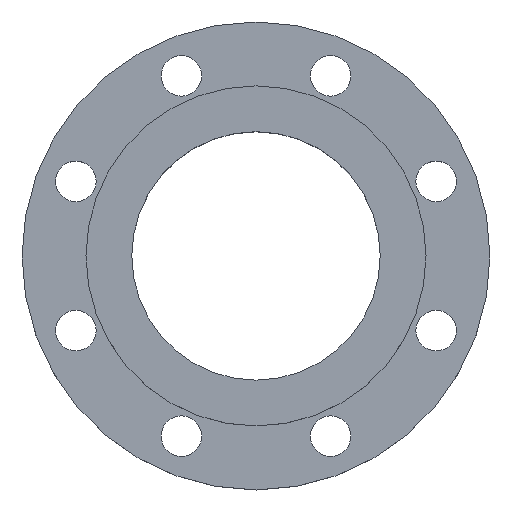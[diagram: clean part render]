
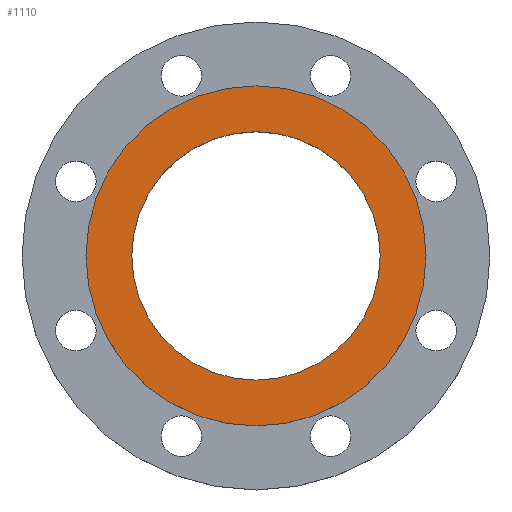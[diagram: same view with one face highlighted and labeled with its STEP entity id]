
A CAD part, top view. The second image highlights one B-rep face of the part: STEP entity #1110.
In plain terms, the highlighted planar face has unit normal (0, 0, 1).
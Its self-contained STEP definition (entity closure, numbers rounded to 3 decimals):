
#28 = DIRECTION ( 'NONE',  ( 1., 0., 0. ) ) ;
#93 = CARTESIAN_POINT ( 'NONE',  ( 0., 0., 24. ) ) ;
#116 = DIRECTION ( 'NONE',  ( 0., 0., 1. ) ) ;
#125 = CARTESIAN_POINT ( 'NONE',  ( 79.65, 0., 24. ) ) ;
#133 = EDGE_CURVE ( 'NONE', #968, #1159, #595, .T. ) ;
#178 = AXIS2_PLACEMENT_3D ( 'NONE', #372, #776, #1088 ) ;
#182 = ORIENTED_EDGE ( 'NONE', *, *, #426, .F. ) ;
#197 = DIRECTION ( 'NONE',  ( 0., 0., 1. ) ) ;
#203 = CIRCLE ( 'NONE', #604, 109. ) ;
#217 = CARTESIAN_POINT ( 'NONE',  ( -109., 0., 24. ) ) ;
#372 = CARTESIAN_POINT ( 'NONE',  ( 79.65, 0., 24. ) ) ;
#389 = VERTEX_POINT ( 'NONE', #1039 ) ;
#426 = EDGE_CURVE ( 'NONE', #1159, #968, #503, .T. ) ;
#481 = FACE_OUTER_BOUND ( 'NONE', #572, .T. ) ;
#503 = CIRCLE ( 'NONE', #1177, 79.65 ) ;
#514 = AXIS2_PLACEMENT_3D ( 'NONE', #984, #116, #551 ) ;
#530 = DIRECTION ( 'NONE',  ( 0., 0., 1. ) ) ;
#540 = CIRCLE ( 'NONE', #909, 109. ) ;
#551 = DIRECTION ( 'NONE',  ( 1., 0., 0. ) ) ;
#572 = EDGE_LOOP ( 'NONE', ( #1119, #666 ) ) ;
#573 = CARTESIAN_POINT ( 'NONE',  ( 0., 0., 24. ) ) ;
#595 = CIRCLE ( 'NONE', #514, 79.65 ) ;
#604 = AXIS2_PLACEMENT_3D ( 'NONE', #93, #530, #887 ) ;
#631 = DIRECTION ( 'NONE',  ( 1., 0., 0. ) ) ;
#640 = EDGE_CURVE ( 'NONE', #389, #890, #540, .T. ) ;
#666 = ORIENTED_EDGE ( 'NONE', *, *, #827, .T. ) ;
#776 = DIRECTION ( 'NONE',  ( 0., 0., 1. ) ) ;
#782 = CARTESIAN_POINT ( 'NONE',  ( -79.65, 0., 24. ) ) ;
#792 = ORIENTED_EDGE ( 'NONE', *, *, #133, .F. ) ;
#827 = EDGE_CURVE ( 'NONE', #890, #389, #203, .T. ) ;
#851 = FACE_BOUND ( 'NONE', #995, .T. ) ;
#887 = DIRECTION ( 'NONE',  ( 1., 0., 0. ) ) ;
#890 = VERTEX_POINT ( 'NONE', #217 ) ;
#909 = AXIS2_PLACEMENT_3D ( 'NONE', #573, #918, #28 ) ;
#918 = DIRECTION ( 'NONE',  ( 0., 0., 1. ) ) ;
#968 = VERTEX_POINT ( 'NONE', #125 ) ;
#984 = CARTESIAN_POINT ( 'NONE',  ( 0., 0., 24. ) ) ;
#995 = EDGE_LOOP ( 'NONE', ( #792, #182 ) ) ;
#1039 = CARTESIAN_POINT ( 'NONE',  ( 109., 0., 24. ) ) ;
#1043 = CARTESIAN_POINT ( 'NONE',  ( 0., 0., 24. ) ) ;
#1088 = DIRECTION ( 'NONE',  ( 1., 0., 0. ) ) ;
#1110 = ADVANCED_FACE ( 'NONE', ( #481, #851 ), #1163, .T. ) ;
#1119 = ORIENTED_EDGE ( 'NONE', *, *, #640, .T. ) ;
#1159 = VERTEX_POINT ( 'NONE', #782 ) ;
#1163 = PLANE ( 'NONE',  #178 ) ;
#1177 = AXIS2_PLACEMENT_3D ( 'NONE', #1043, #197, #631 ) ;
